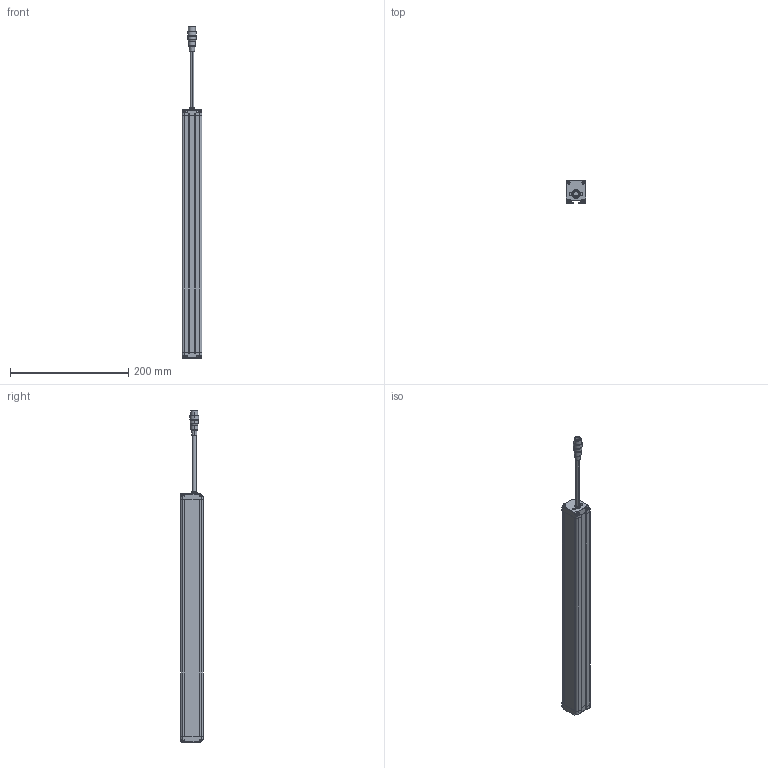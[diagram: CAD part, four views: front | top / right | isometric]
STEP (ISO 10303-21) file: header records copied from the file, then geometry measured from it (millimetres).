
FILE_DESCRIPTION((''),'2;1');
FILE_NAME('CT6-0392','2026-03-31T10:15:45',('Administrator'),(''),'CREO PARAMETRIC BY PTC INC, 2016510','CREO PARAMETRIC BY PTC INC, 2016510','');
FILE_SCHEMA(('AUTOMOTIVE_DESIGN { 1 0 10303 214 1 1 1 1 }'));
Length unit declared in the file: millimetre
Products named in the file (1): CT6-0392
Bounding box: 33 x 38 x 561.9 mm (x, y, z)
Surface area: 101337.9 mm2 (no closed solid volume)
Topology: 0 solids, 12 shells, 819 faces, 2212 edges, 1420 vertices
Faces by surface type: plane 388, cylinder 235, extrusion 88, sphere 40, torus 36, cone 28, bspline 4
Entity records: 32663 total; most frequent: CARTESIAN_POINT 6191, ORIENTED_EDGE 4336, DIRECTION 4062, EDGE_CURVE 2168, VERTEX_POINT 1420, AXIS2_PLACEMENT_3D 1386, VECTOR 1290, LINE 1202
